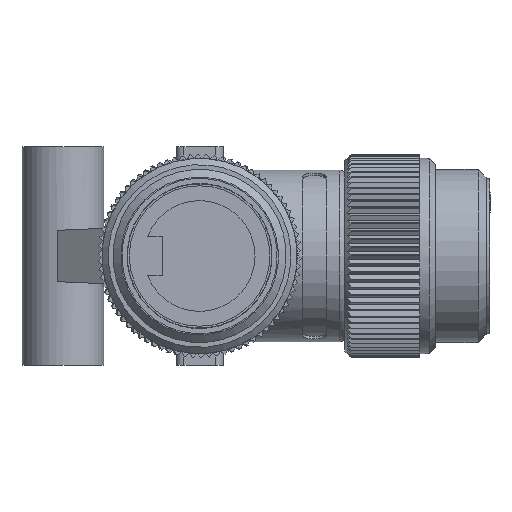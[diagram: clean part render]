
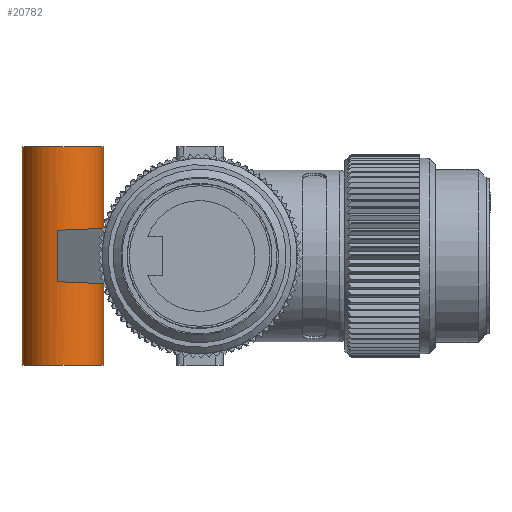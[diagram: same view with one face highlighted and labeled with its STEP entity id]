
A CAD part, left-side view. The second image highlights one B-rep face of the part: STEP entity #20782.
In plain terms, the highlighted cylindrical face has radius 5.25 mm (diameter 10.5 mm), a full revolution.
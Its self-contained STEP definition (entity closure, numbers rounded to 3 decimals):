
#1013=LINE('',#32846,#2374);
#1014=LINE('',#32850,#2375);
#1015=LINE('',#32854,#2376);
#1016=LINE('',#32858,#2377);
#2374=VECTOR('',#25941,10.);
#2375=VECTOR('',#25944,10.);
#2376=VECTOR('',#25947,10.);
#2377=VECTOR('',#25950,10.);
#3276=ELLIPSE('',#22404,5.253,5.25);
#3277=ELLIPSE('',#22405,5.253,5.25);
#3278=ELLIPSE('',#22406,5.253,5.25);
#3279=ELLIPSE('',#22407,5.253,5.25);
#4228=FACE_BOUND('',#6083,.T.);
#4229=FACE_BOUND('',#6084,.T.);
#4230=FACE_BOUND('',#6085,.T.);
#4766=FACE_OUTER_BOUND('',#6082,.T.);
#6082=EDGE_LOOP('',(#14862));
#6083=EDGE_LOOP('',(#14863,#14864,#14865,#14866));
#6084=EDGE_LOOP('',(#14867,#14868,#14869,#14870));
#6085=EDGE_LOOP('',(#14871));
#7376=CIRCLE('',#22400,5.25);
#7378=CIRCLE('',#22403,5.25);
#8739=VERTEX_POINT('',#32837);
#8741=VERTEX_POINT('',#32842);
#8742=VERTEX_POINT('',#32844);
#8743=VERTEX_POINT('',#32845);
#8744=VERTEX_POINT('',#32847);
#8745=VERTEX_POINT('',#32849);
#8746=VERTEX_POINT('',#32852);
#8747=VERTEX_POINT('',#32853);
#8748=VERTEX_POINT('',#32855);
#8749=VERTEX_POINT('',#32857);
#10960=EDGE_CURVE('',#8739,#8739,#7376,.T.);
#10962=EDGE_CURVE('',#8741,#8741,#7378,.T.);
#10963=EDGE_CURVE('',#8742,#8743,#1013,.T.);
#10964=EDGE_CURVE('',#8743,#8744,#3276,.T.);
#10965=EDGE_CURVE('',#8744,#8745,#1014,.T.);
#10966=EDGE_CURVE('',#8745,#8742,#3277,.T.);
#10967=EDGE_CURVE('',#8746,#8747,#1015,.T.);
#10968=EDGE_CURVE('',#8747,#8748,#3278,.T.);
#10969=EDGE_CURVE('',#8748,#8749,#1016,.T.);
#10970=EDGE_CURVE('',#8749,#8746,#3279,.T.);
#14862=ORIENTED_EDGE('',*,*,#10962,.T.);
#14863=ORIENTED_EDGE('',*,*,#10963,.T.);
#14864=ORIENTED_EDGE('',*,*,#10964,.T.);
#14865=ORIENTED_EDGE('',*,*,#10965,.T.);
#14866=ORIENTED_EDGE('',*,*,#10966,.T.);
#14867=ORIENTED_EDGE('',*,*,#10967,.T.);
#14868=ORIENTED_EDGE('',*,*,#10968,.T.);
#14869=ORIENTED_EDGE('',*,*,#10969,.T.);
#14870=ORIENTED_EDGE('',*,*,#10970,.T.);
#14871=ORIENTED_EDGE('',*,*,#10960,.T.);
#18872=CYLINDRICAL_SURFACE('',#22402,5.25);
#20782=ADVANCED_FACE('',(#4766,#4228,#4229,#4230),#18872,.T.);
#22400=AXIS2_PLACEMENT_3D('',#32838,#25933,#25934);
#22402=AXIS2_PLACEMENT_3D('',#32841,#25937,#25938);
#22403=AXIS2_PLACEMENT_3D('',#32843,#25939,#25940);
#22404=AXIS2_PLACEMENT_3D('',#32848,#25942,#25943);
#22405=AXIS2_PLACEMENT_3D('',#32851,#25945,#25946);
#22406=AXIS2_PLACEMENT_3D('',#32856,#25948,#25949);
#22407=AXIS2_PLACEMENT_3D('',#32859,#25951,#25952);
#25933=DIRECTION('center_axis',(0.,0.,-1.));
#25934=DIRECTION('ref_axis',(-1.,0.,0.));
#25937=DIRECTION('center_axis',(0.,0.,1.));
#25938=DIRECTION('ref_axis',(-1.,0.,0.));
#25939=DIRECTION('center_axis',(0.,0.,1.));
#25940=DIRECTION('ref_axis',(-1.,0.,0.));
#25941=DIRECTION('',(0.,0.,1.));
#25942=DIRECTION('center_axis',(0.02,0.029,0.999));
#25943=DIRECTION('ref_axis',(-0.559,-0.829,0.035));
#25944=DIRECTION('',(0.,0.,-1.));
#25945=DIRECTION('center_axis',(0.02,0.029,-0.999));
#25946=DIRECTION('ref_axis',(-0.559,-0.829,-0.035));
#25947=DIRECTION('',(0.,0.,-1.));
#25948=DIRECTION('center_axis',(-0.02,0.029,
-0.999));
#25949=DIRECTION('ref_axis',(-0.559,0.829,0.035));
#25950=DIRECTION('',(0.,0.,1.));
#25951=DIRECTION('center_axis',(-0.02,0.029,
0.999));
#25952=DIRECTION('ref_axis',(-0.559,0.829,-0.035));
#32837=CARTESIAN_POINT('',(5.25,35.946,14.));
#32838=CARTESIAN_POINT('Origin',(0.,35.946,
14.));
#32841=CARTESIAN_POINT('Origin',(0.,35.946,
0.));
#32842=CARTESIAN_POINT('',(5.25,35.946,-14.));
#32843=CARTESIAN_POINT('Origin',(0.,35.946,
-14.));
#32844=CARTESIAN_POINT('',(-5.199,36.673,-3.287));
#32845=CARTESIAN_POINT('',(-5.199,36.673,3.287));
#32846=CARTESIAN_POINT('',(-5.199,36.673,0.));
#32847=CARTESIAN_POINT('',(-4.739,33.687,3.364));
#32848=CARTESIAN_POINT('Origin',(0.,35.946,
3.207));
#32849=CARTESIAN_POINT('',(-4.739,33.687,-3.364));
#32850=CARTESIAN_POINT('',(-4.739,33.687,0.));
#32851=CARTESIAN_POINT('Origin',(0.,35.946,
-3.207));
#32852=CARTESIAN_POINT('',(5.199,36.673,3.287));
#32853=CARTESIAN_POINT('',(5.199,36.673,-3.287));
#32854=CARTESIAN_POINT('',(5.199,36.673,0.));
#32855=CARTESIAN_POINT('',(4.739,33.687,-3.364));
#32856=CARTESIAN_POINT('Origin',(0.,35.946,
-3.207));
#32857=CARTESIAN_POINT('',(4.739,33.687,3.364));
#32858=CARTESIAN_POINT('',(4.739,33.687,0.));
#32859=CARTESIAN_POINT('Origin',(0.,35.946,
3.207));
